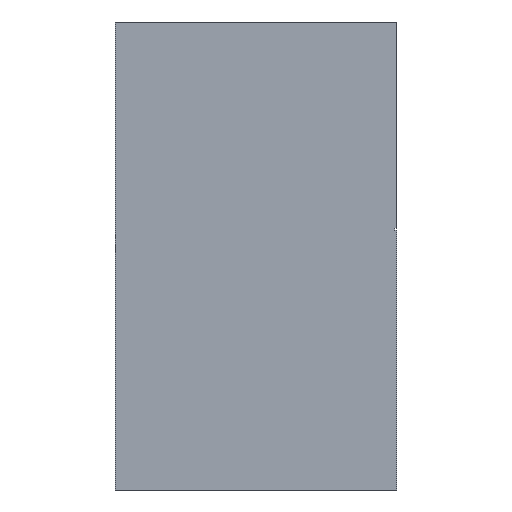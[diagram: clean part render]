
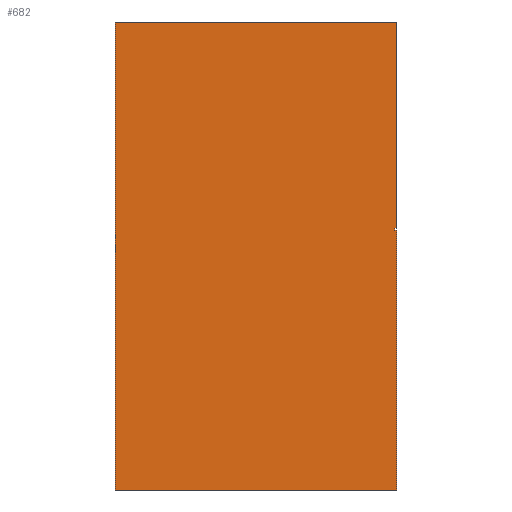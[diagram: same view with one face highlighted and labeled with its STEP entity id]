
A CAD part, left-side view. The second image highlights one B-rep face of the part: STEP entity #682.
In plain terms, the highlighted planar face has unit normal (-1, 0, 0).
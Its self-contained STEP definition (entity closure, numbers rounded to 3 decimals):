
#52=FACE_OUTER_BOUND('',#81,.T.);
#81=EDGE_LOOP('',(#612,#613,#614,#615,#616,#617,#618,#619));
#223=VERTEX_POINT('',#1784);
#225=VERTEX_POINT('',#1788);
#227=VERTEX_POINT('',#1793);
#228=VERTEX_POINT('',#1798);
#230=VERTEX_POINT('',#1804);
#233=VERTEX_POINT('',#1811);
#235=VERTEX_POINT('',#1818);
#237=VERTEX_POINT('',#1824);
#388=EDGE_CURVE('',#223,#225,#921,.T.);
#391=EDGE_CURVE('',#227,#223,#924,.T.);
#392=EDGE_CURVE('',#228,#227,#925,.T.);
#396=EDGE_CURVE('',#225,#230,#929,.T.);
#400=EDGE_CURVE('',#233,#228,#933,.T.);
#402=EDGE_CURVE('',#235,#233,#935,.T.);
#406=EDGE_CURVE('',#230,#237,#939,.T.);
#408=EDGE_CURVE('',#237,#235,#941,.T.);
#612=ORIENTED_EDGE('',*,*,#402,.T.);
#613=ORIENTED_EDGE('',*,*,#400,.T.);
#614=ORIENTED_EDGE('',*,*,#392,.T.);
#615=ORIENTED_EDGE('',*,*,#391,.T.);
#616=ORIENTED_EDGE('',*,*,#388,.T.);
#617=ORIENTED_EDGE('',*,*,#396,.T.);
#618=ORIENTED_EDGE('',*,*,#406,.T.);
#619=ORIENTED_EDGE('',*,*,#408,.T.);
#654=PLANE('',#1160);
#682=ADVANCED_FACE('',(#52),#654,.T.);
#921=LINE('',#1790,#1112);
#924=LINE('',#1796,#1115);
#925=LINE('',#1799,#1116);
#929=LINE('',#1807,#1120);
#933=LINE('',#1814,#1124);
#935=LINE('',#1819,#1126);
#939=LINE('',#1826,#1130);
#941=LINE('',#1829,#1132);
#1112=VECTOR('',#1374,10.);
#1115=VECTOR('',#1379,10.);
#1116=VECTOR('',#1382,10.);
#1120=VECTOR('',#1388,1190.);
#1124=VECTOR('',#1394,1500.);
#1126=VECTOR('',#1398,1625.);
#1130=VECTOR('',#1404,1625.);
#1132=VECTOR('',#1408,2700.);
#1160=AXIS2_PLACEMENT_3D('',#1830,#1409,#1410);
#1374=DIRECTION('',(0.,-1.,0.));
#1379=DIRECTION('',(0.,0.,1.));
#1382=DIRECTION('',(0.,1.,0.));
#1388=DIRECTION('',(0.,0.,1.));
#1394=DIRECTION('',(0.,0.,1.));
#1398=DIRECTION('',(0.,-1.,0.));
#1404=DIRECTION('',(0.,1.,0.));
#1408=DIRECTION('',(0.,0.,-1.));
#1409=DIRECTION('center_axis',(-1.,0.,0.));
#1410=DIRECTION('ref_axis',(0.,0.,-1.));
#1784=CARTESIAN_POINT('',(0.,-1615.,1510.));
#1788=CARTESIAN_POINT('',(0.,-1625.,1510.));
#1790=CARTESIAN_POINT('',(0.,-1615.,1510.));
#1793=CARTESIAN_POINT('',(0.,-1615.,1500.));
#1796=CARTESIAN_POINT('',(0.,-1615.,1500.));
#1798=CARTESIAN_POINT('',(0.,-1625.,1500.));
#1799=CARTESIAN_POINT('',(0.,-1625.,1500.));
#1804=CARTESIAN_POINT('',(0.,-1625.,2700.));
#1807=CARTESIAN_POINT('',(0.,-1625.,1510.));
#1811=CARTESIAN_POINT('',(0.,-1625.,0.));
#1814=CARTESIAN_POINT('',(0.,-1625.,0.));
#1818=CARTESIAN_POINT('',(0.,0.,0.));
#1819=CARTESIAN_POINT('',(0.,0.,0.));
#1824=CARTESIAN_POINT('',(0.,0.,2700.));
#1826=CARTESIAN_POINT('',(0.,-1625.,2700.));
#1829=CARTESIAN_POINT('',(0.,0.,2700.));
#1830=CARTESIAN_POINT('Origin',(0.,0.,0.));
